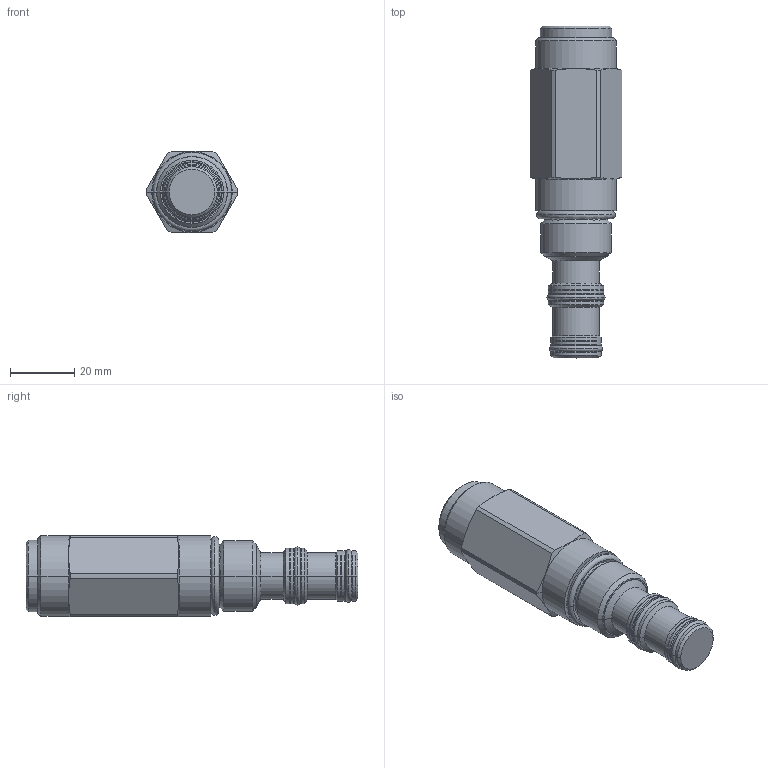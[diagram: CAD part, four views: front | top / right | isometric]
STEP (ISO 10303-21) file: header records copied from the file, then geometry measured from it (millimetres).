
FILE_DESCRIPTION((''),'2;1');
FILE_NAME('PRT0011','2009-03-24T',('jcs'),(''),'PRO/ENGINEER BY PARAMETRIC TECHNOLOGY CORPORATION, 2008510','PRO/ENGINEER BY PARAMETRIC TECHNOLOGY CORPORATION, 2008510','');
FILE_SCHEMA(('CONFIG_CONTROL_DESIGN'));
Length unit declared in the file: inch
Products named in the file (1): PRT0011
Bounding box: 28.57 x 103.65 x 25.4 mm (x, y, z)
Volume: 41203 mm3; surface area: 10261.1 mm2
Topology: 5 solids, 5 shells, 145 faces, 310 edges, 175 vertices
Faces by surface type: cylinder 42, plane 29, cone 26, revolution 24, torus 24
Entity records: 4486 total; most frequent: CARTESIAN_POINT 1282, DIRECTION 706, ORIENTED_EDGE 616, EDGE_CURVE 308, AXIS2_PLACEMENT_3D 295, VERTEX_POINT 175, CIRCLE 174, EDGE_LOOP 155
